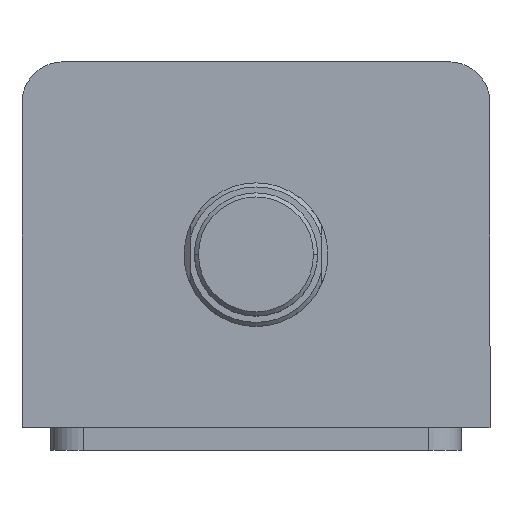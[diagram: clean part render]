
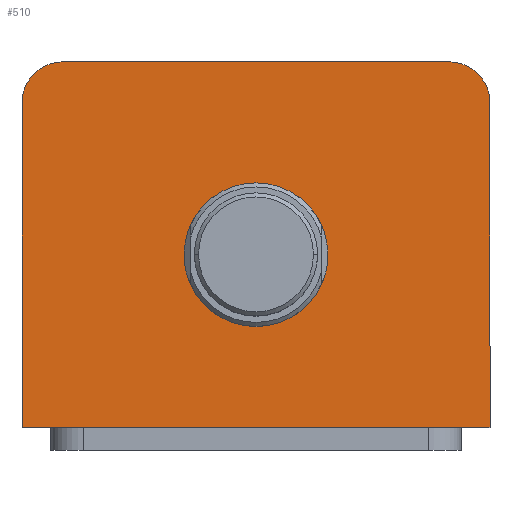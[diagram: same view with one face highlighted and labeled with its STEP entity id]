
A CAD part, top view. The second image highlights one B-rep face of the part: STEP entity #510.
In plain terms, the highlighted planar face has unit normal (0, 0, 1).
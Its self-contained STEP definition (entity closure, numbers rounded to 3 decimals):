
#2 = ORIENTED_EDGE ( 'NONE', *, *, #3071, .T. ) ;
#3 = ORIENTED_EDGE ( 'NONE', *, *, #3097, .T. ) ;
#5 = ORIENTED_EDGE ( 'NONE', *, *, #3093, .T. ) ;
#8 = ORIENTED_EDGE ( 'NONE', *, *, #3033, .F. ) ;
#12 = ORIENTED_EDGE ( 'NONE', *, *, #3031, .F. ) ;
#89 = FACE_OUTER_BOUND ( 'NONE', #1788, .T. ) ;
#94 = FACE_BOUND ( 'NONE', #863, .T. ) ;
#362 = CARTESIAN_POINT ( 'NONE',  ( -57., 34.5, 102. ) ) ;
#371 = CARTESIAN_POINT ( 'NONE',  ( 57., 34.5, 102. ) ) ;
#374 = CARTESIAN_POINT ( 'NONE',  ( -47., 44.5, 102. ) ) ;
#386 = CARTESIAN_POINT ( 'NONE',  ( 47., 44.5, 102. ) ) ;
#389 = CARTESIAN_POINT ( 'NONE',  ( -57., -44.5, 102. ) ) ;
#392 = CARTESIAN_POINT ( 'NONE',  ( 17.5, -2.5, 102. ) ) ;
#404 = CARTESIAN_POINT ( 'NONE',  ( -17.5, -2.5, 102. ) ) ;
#471 = VERTEX_POINT ( 'NONE', #2311 ) ;
#510 = ADVANCED_FACE ( 'NONE', ( #94, #89 ), #1770, .T. ) ;
#863 = EDGE_LOOP ( 'NONE', ( #8, #12 ) ) ;
#1116 = CIRCLE ( 'NONE', #3361, 17.5 ) ;
#1119 = CIRCLE ( 'NONE', #3534, 17.5 ) ;
#1125 = LINE ( 'NONE', #3235, #1132 ) ;
#1132 = VECTOR ( 'NONE', #3245, 1000. ) ;
#1161 = LINE ( 'NONE', #2871, #1164 ) ;
#1164 = VECTOR ( 'NONE', #2872, 1000. ) ;
#1188 = LINE ( 'NONE', #1986, #1191 ) ;
#1191 = VECTOR ( 'NONE', #1987, 1000. ) ;
#1204 = CIRCLE ( 'NONE', #3631, 10. ) ;
#1217 = CIRCLE ( 'NONE', #3579, 10. ) ;
#1223 = LINE ( 'NONE', #2055, #1226 ) ;
#1226 = VECTOR ( 'NONE', #2056, 1000. ) ;
#1770 = PLANE ( 'NONE',  #3450 ) ;
#1771 = CARTESIAN_POINT ( 'NONE',  ( 0., 0., 102. ) ) ;
#1775 = DIRECTION ( 'NONE',  ( 0., 0., 1. ) ) ;
#1776 = DIRECTION ( 'NONE',  ( 1., 0., 0. ) ) ;
#1788 = EDGE_LOOP ( 'NONE', ( #2, #5, #3, #2542, #2538, #2545 ) ) ;
#1986 = CARTESIAN_POINT ( 'NONE',  ( -57., 44.5, 102. ) ) ;
#1987 = DIRECTION ( 'NONE',  ( -1., 0., 0. ) ) ;
#2018 = CARTESIAN_POINT ( 'NONE',  ( 47., 34.5, 102. ) ) ;
#2019 = DIRECTION ( 'NONE',  ( 0., 0., 1. ) ) ;
#2020 = DIRECTION ( 'NONE',  ( 1., 0., 0. ) ) ;
#2045 = CARTESIAN_POINT ( 'NONE',  ( -47., 34.5, 102. ) ) ;
#2046 = DIRECTION ( 'NONE',  ( 0., 0., 1. ) ) ;
#2047 = DIRECTION ( 'NONE',  ( 1., 0., 0. ) ) ;
#2055 = CARTESIAN_POINT ( 'NONE',  ( -57., 44.5, 102. ) ) ;
#2056 = DIRECTION ( 'NONE',  ( 0., -1., 0. ) ) ;
#2311 = CARTESIAN_POINT ( 'NONE',  ( 57., -44.5, 102. ) ) ;
#2538 = ORIENTED_EDGE ( 'NONE', *, *, #3056, .T. ) ;
#2542 = ORIENTED_EDGE ( 'NONE', *, *, #3040, .T. ) ;
#2545 = ORIENTED_EDGE ( 'NONE', *, *, #3084, .T. ) ;
#2737 = VERTEX_POINT ( 'NONE', #362 ) ;
#2747 = VERTEX_POINT ( 'NONE', #371 ) ;
#2750 = VERTEX_POINT ( 'NONE', #374 ) ;
#2762 = VERTEX_POINT ( 'NONE', #386 ) ;
#2765 = VERTEX_POINT ( 'NONE', #389 ) ;
#2768 = VERTEX_POINT ( 'NONE', #392 ) ;
#2780 = VERTEX_POINT ( 'NONE', #404 ) ;
#2871 = CARTESIAN_POINT ( 'NONE',  ( 57., 44.5, 102. ) ) ;
#2872 = DIRECTION ( 'NONE',  ( 0., 1., 0. ) ) ;
#3031 = EDGE_CURVE ( 'NONE', #2780, #2768, #1116, .T. ) ;
#3033 = EDGE_CURVE ( 'NONE', #2768, #2780, #1119, .T. ) ;
#3040 = EDGE_CURVE ( 'NONE', #2765, #471, #1125, .T. ) ;
#3056 = EDGE_CURVE ( 'NONE', #471, #2747, #1161, .T. ) ;
#3071 = EDGE_CURVE ( 'NONE', #2762, #2750, #1188, .T. ) ;
#3084 = EDGE_CURVE ( 'NONE', #2747, #2762, #1204, .T. ) ;
#3093 = EDGE_CURVE ( 'NONE', #2750, #2737, #1217, .T. ) ;
#3097 = EDGE_CURVE ( 'NONE', #2737, #2765, #1223, .T. ) ;
#3221 = CARTESIAN_POINT ( 'NONE',  ( 0., -2.5, 102. ) ) ;
#3222 = DIRECTION ( 'NONE',  ( 0., 0., 1. ) ) ;
#3223 = DIRECTION ( 'NONE',  ( 1., 0., 0. ) ) ;
#3224 = CARTESIAN_POINT ( 'NONE',  ( 0., -2.5, 102. ) ) ;
#3225 = DIRECTION ( 'NONE',  ( 0., 0., 1. ) ) ;
#3226 = DIRECTION ( 'NONE',  ( 1., 0., 0. ) ) ;
#3235 = CARTESIAN_POINT ( 'NONE',  ( -57., -44.5, 102. ) ) ;
#3245 = DIRECTION ( 'NONE',  ( 1., 0., 0. ) ) ;
#3361 = AXIS2_PLACEMENT_3D ( 'NONE', #3221, #3222, #3223 ) ;
#3450 = AXIS2_PLACEMENT_3D ( 'NONE', #1771, #1775, #1776 ) ;
#3534 = AXIS2_PLACEMENT_3D ( 'NONE', #3224, #3225, #3226 ) ;
#3579 = AXIS2_PLACEMENT_3D ( 'NONE', #2045, #2046, #2047 ) ;
#3631 = AXIS2_PLACEMENT_3D ( 'NONE', #2018, #2019, #2020 ) ;
